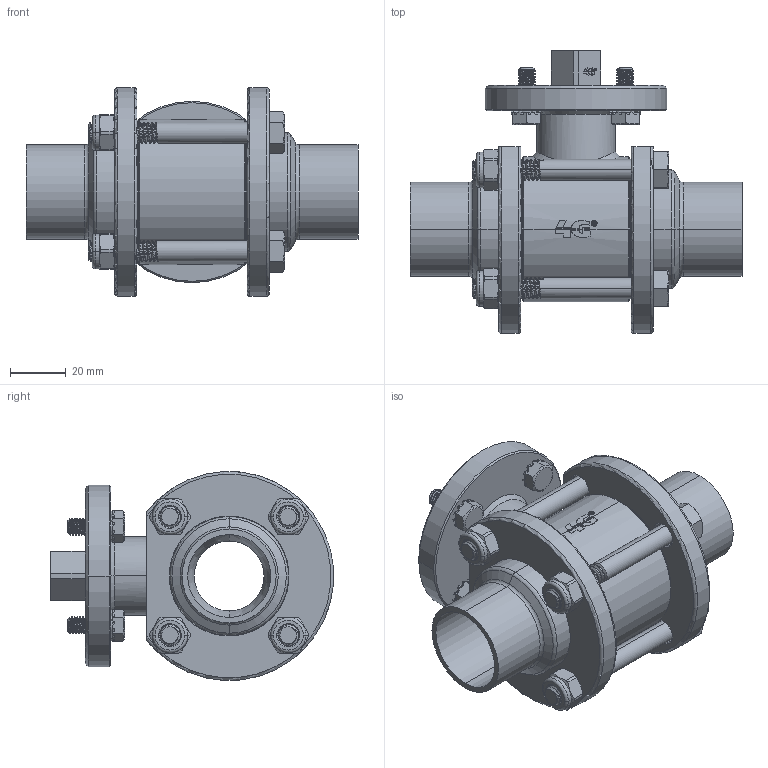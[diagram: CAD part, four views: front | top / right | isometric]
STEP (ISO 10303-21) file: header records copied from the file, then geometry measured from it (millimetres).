
FILE_DESCRIPTION((''),'2;1');
FILE_NAME('5230426H91F_SW0001','2026-07-16T16:24:58',('tecnico2'),('CDM Tecnoconsulting'),'CREO PARAMETRIC BY PTC INC, 2024063','CREO PARAMETRIC BY PTC INC, 2024063','');
FILE_SCHEMA(('CONFIG_CONTROL_DESIGN','SHAPE_APPEARANCE_LAYERS_GROUPS'));
Products named in the file (1): 5230426H91F_SW0001
Bounding box: 119 x 101.38 x 74.9 mm (x, y, z)
Volume: 188817.4 mm3; surface area: 86704.1 mm2
Topology: 2 solids, 2 shells, 2000 faces, 5513 edges, 3476 vertices
Faces by surface type: plane 756, cylinder 546, cone 250, bspline 196, extrusion 166, torus 82, sphere 4
Entity records: 154600 total; most frequent: CARTESIAN_POINT 90495, ORIENTED_EDGE 11010, DIRECTION 7994, PRESENTATION_STYLE_ASSIGNMENT 5565, STYLED_ITEM 5507, CURVE_STYLE 5505, EDGE_CURVE 5505, VERTEX_POINT 3476
